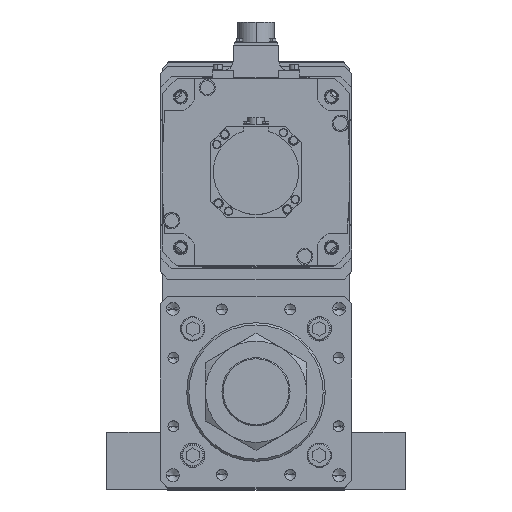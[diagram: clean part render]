
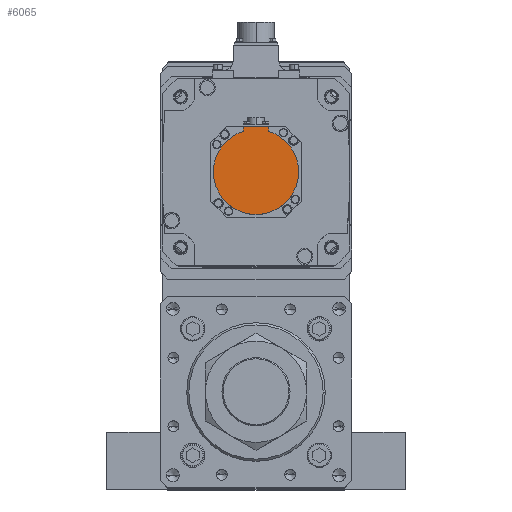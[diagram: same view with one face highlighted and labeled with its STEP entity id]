
A CAD part, top view. The second image highlights one B-rep face of the part: STEP entity #6065.
In plain terms, the highlighted planar face has unit normal (0, 0, 1) as drawn and (0, 0, -1) by its records, which use the part's own axes.
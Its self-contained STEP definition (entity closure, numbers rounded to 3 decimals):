
#1462 = VERTEX_POINT ( 'NONE', #53517 ) ;
#1981 = CARTESIAN_POINT ( 'NONE',  ( -12., -38.158, -178.5 ) ) ;
#2462 = LINE ( 'NONE', #14112, #14127 ) ;
#2468 = CARTESIAN_POINT ( 'NONE',  ( -12., -40.329, -178.5 ) ) ;
#5755 = CIRCLE ( 'NONE', #42477, 40. ) ;
#6065 = ADVANCED_FACE ( 'NONE', ( #38246 ), #14279, .F. ) ;
#7594 = CARTESIAN_POINT ( 'NONE',  ( 0., 0., -178.5 ) ) ;
#7720 = VERTEX_POINT ( 'NONE', #30541 ) ;
#7945 = DIRECTION ( 'NONE',  ( 1., 0., 0. ) ) ;
#9648 = ORIENTED_EDGE ( 'NONE', *, *, #39453, .T. ) ;
#10508 = DIRECTION ( 'NONE',  ( -1., 0., 0. ) ) ;
#11406 = ORIENTED_EDGE ( 'NONE', *, *, #33476, .F. ) ;
#12016 = CARTESIAN_POINT ( 'NONE',  ( 40., 0., -178.5 ) ) ;
#13067 = CARTESIAN_POINT ( 'NONE',  ( 12., -42.5, -178.5 ) ) ;
#13993 = EDGE_CURVE ( 'NONE', #48919, #1462, #25526, .T. ) ;
#14112 = CARTESIAN_POINT ( 'NONE',  ( 0., -42.5, -178.5 ) ) ;
#14127 = VECTOR ( 'NONE', #10508, 1000. ) ;
#14279 = PLANE ( 'NONE',  #15737 ) ;
#14298 = EDGE_LOOP ( 'NONE', ( #9648, #42384, #47439, #11406, #52641, #37221 ) ) ;
#15737 = AXIS2_PLACEMENT_3D ( 'NONE', #18248, #18776, #18609 ) ;
#17998 = DIRECTION ( 'NONE',  ( 0., 0., 1. ) ) ;
#18093 = LINE ( 'NONE', #2468, #47298 ) ;
#18248 = CARTESIAN_POINT ( 'NONE',  ( 0., -1.249, -178.5 ) ) ;
#18609 = DIRECTION ( 'NONE',  ( 1., 0., 0. ) ) ;
#18776 = DIRECTION ( 'NONE',  ( 0., 0., 1. ) ) ;
#19093 = EDGE_CURVE ( 'NONE', #48919, #7720, #2462, .T. ) ;
#19561 = EDGE_CURVE ( 'NONE', #36430, #53708, #5755, .T. ) ;
#19658 = DIRECTION ( 'NONE',  ( 0., 0., 1. ) ) ;
#22008 = CARTESIAN_POINT ( 'NONE',  ( 0., 0., -178.5 ) ) ;
#23331 = DIRECTION ( 'NONE',  ( 0., 1., 0. ) ) ;
#24639 = DIRECTION ( 'NONE',  ( 0., 0., 1. ) ) ;
#25070 = CIRCLE ( 'NONE', #44593, 40. ) ;
#25526 = LINE ( 'NONE', #28232, #32656 ) ;
#27008 = EDGE_CURVE ( 'NONE', #53708, #47874, #48304, .T. ) ;
#28232 = CARTESIAN_POINT ( 'NONE',  ( 12., -1.249, -178.5 ) ) ;
#30355 = DIRECTION ( 'NONE',  ( 1., 0., 0. ) ) ;
#30541 = CARTESIAN_POINT ( 'NONE',  ( -12., -42.5, -178.5 ) ) ;
#32656 = VECTOR ( 'NONE', #23331, 1000. ) ;
#33476 = EDGE_CURVE ( 'NONE', #1462, #36430, #25070, .T. ) ;
#34903 = CARTESIAN_POINT ( 'NONE',  ( -40., 0., -178.5 ) ) ;
#36430 = VERTEX_POINT ( 'NONE', #12016 ) ;
#37221 = ORIENTED_EDGE ( 'NONE', *, *, #19093, .T. ) ;
#38246 = FACE_OUTER_BOUND ( 'NONE', #14298, .T. ) ;
#38751 = AXIS2_PLACEMENT_3D ( 'NONE', #7594, #19658, #7945 ) ;
#39453 = EDGE_CURVE ( 'NONE', #7720, #47874, #18093, .T. ) ;
#40281 = DIRECTION ( 'NONE',  ( 0., 1., 0. ) ) ;
#42384 = ORIENTED_EDGE ( 'NONE', *, *, #27008, .F. ) ;
#42477 = AXIS2_PLACEMENT_3D ( 'NONE', #22008, #17998, #30355 ) ;
#44593 = AXIS2_PLACEMENT_3D ( 'NONE', #49489, #24639, #53653 ) ;
#47298 = VECTOR ( 'NONE', #40281, 1000. ) ;
#47439 = ORIENTED_EDGE ( 'NONE', *, *, #19561, .F. ) ;
#47874 = VERTEX_POINT ( 'NONE', #1981 ) ;
#48304 = CIRCLE ( 'NONE', #38751, 40. ) ;
#48919 = VERTEX_POINT ( 'NONE', #13067 ) ;
#49489 = CARTESIAN_POINT ( 'NONE',  ( 0., 0., -178.5 ) ) ;
#52641 = ORIENTED_EDGE ( 'NONE', *, *, #13993, .F. ) ;
#53517 = CARTESIAN_POINT ( 'NONE',  ( 12., -38.158, -178.5 ) ) ;
#53653 = DIRECTION ( 'NONE',  ( 1., 0., 0. ) ) ;
#53708 = VERTEX_POINT ( 'NONE', #34903 ) ;
